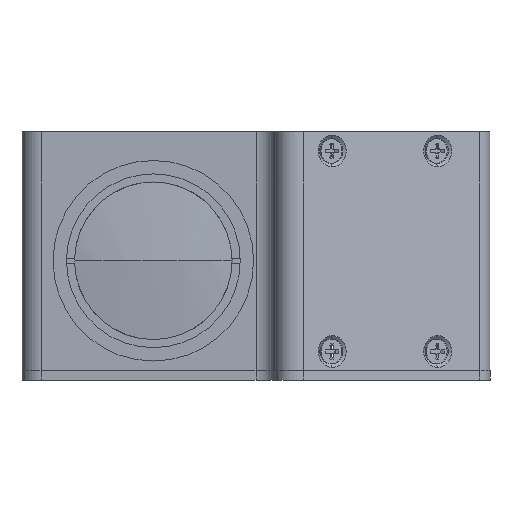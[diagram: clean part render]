
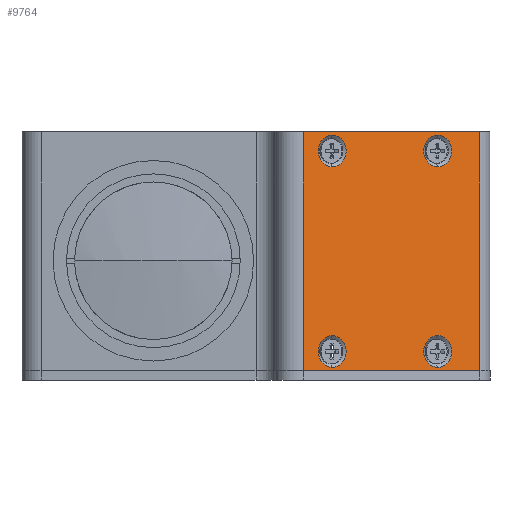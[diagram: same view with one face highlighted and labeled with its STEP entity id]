
A CAD part, left-side view. The second image highlights one B-rep face of the part: STEP entity #9764.
In plain terms, the highlighted planar face has unit normal (-0.883, -0.469, 0).
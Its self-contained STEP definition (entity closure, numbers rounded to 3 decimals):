
#4 = DIRECTION ( 'NONE',  ( -0.883, -0.469, 0. ) ) ;
#433 = DIRECTION ( 'NONE',  ( 0., 0., -1. ) ) ;
#437 = CARTESIAN_POINT ( 'NONE',  ( 59.561, -59.548, 26.3 ) ) ;
#566 = CARTESIAN_POINT ( 'NONE',  ( 47.824, -37.475, 23. ) ) ;
#599 = PLANE ( 'NONE',  #3641 ) ;
#628 = CARTESIAN_POINT ( 'NONE',  ( 59.561, -59.548, 19.7 ) ) ;
#851 = VERTEX_POINT ( 'NONE', #1781 ) ;
#879 = CARTESIAN_POINT ( 'NONE',  ( 59.561, -59.548, 23. ) ) ;
#939 = DIRECTION ( 'NONE',  ( 0.469, -0.883, 0. ) ) ;
#1079 = EDGE_CURVE ( 'NONE', #9185, #851, #8837, .T. ) ;
#1301 = CARTESIAN_POINT ( 'NONE',  ( 44.566, -31.348, -23. ) ) ;
#1386 = CARTESIAN_POINT ( 'NONE',  ( 64.256, -68.378, 2. ) ) ;
#1394 = FACE_BOUND ( 'NONE', #14775, .T. ) ;
#1419 = DIRECTION ( 'NONE',  ( -0.883, -0.469, 0. ) ) ;
#1432 = ORIENTED_EDGE ( 'NONE', *, *, #3705, .F. ) ;
#1469 = EDGE_CURVE ( 'NONE', #8634, #4932, #7221, .T. ) ;
#1491 = CARTESIAN_POINT ( 'NONE',  ( 47.824, -37.475, -19. ) ) ;
#1673 = EDGE_CURVE ( 'NONE', #7015, #13671, #13429, .T. ) ;
#1676 = CARTESIAN_POINT ( 'NONE',  ( 59.561, -59.548, -15.7 ) ) ;
#1737 = DIRECTION ( 'NONE',  ( 0., 0., 1. ) ) ;
#1769 = AXIS2_PLACEMENT_3D ( 'NONE', #8248, #1419, #9402 ) ;
#1775 = VERTEX_POINT ( 'NONE', #4211 ) ;
#1781 = CARTESIAN_POINT ( 'NONE',  ( 59.561, -59.548, -22.3 ) ) ;
#2018 = DIRECTION ( 'NONE',  ( 0., 0., 1. ) ) ;
#2177 = AXIS2_PLACEMENT_3D ( 'NONE', #879, #8873, #2018 ) ;
#2257 = CARTESIAN_POINT ( 'NONE',  ( 47.824, -37.475, -19. ) ) ;
#2311 = AXIS2_PLACEMENT_3D ( 'NONE', #12182, #5369, #13323 ) ;
#2443 = EDGE_LOOP ( 'NONE', ( #7102, #5990, #13372, #9645 ) ) ;
#2625 = DIRECTION ( 'NONE',  ( 0., 0., 1. ) ) ;
#2887 = DIRECTION ( 'NONE',  ( -0.883, -0.469, 0. ) ) ;
#2896 = VERTEX_POINT ( 'NONE', #4279 ) ;
#2918 = DIRECTION ( 'NONE',  ( -0.883, -0.469, 0. ) ) ;
#3017 = ORIENTED_EDGE ( 'NONE', *, *, #1079, .F. ) ;
#3122 = CARTESIAN_POINT ( 'NONE',  ( 67.497, -74.473, -23. ) ) ;
#3194 = ORIENTED_EDGE ( 'NONE', *, *, #8314, .F. ) ;
#3394 = DIRECTION ( 'NONE',  ( 0., 0., 1. ) ) ;
#3641 = AXIS2_PLACEMENT_3D ( 'NONE', #8601, #2887, #10895 ) ;
#3705 = EDGE_CURVE ( 'NONE', #851, #9185, #6083, .T. ) ;
#4128 = ORIENTED_EDGE ( 'NONE', *, *, #6864, .F. ) ;
#4211 = CARTESIAN_POINT ( 'NONE',  ( 64.256, -68.378, -23. ) ) ;
#4279 = CARTESIAN_POINT ( 'NONE',  ( 47.824, -37.475, -22.3 ) ) ;
#4788 = EDGE_CURVE ( 'NONE', #6517, #13914, #6514, .T. ) ;
#4932 = VERTEX_POINT ( 'NONE', #628 ) ;
#5369 = DIRECTION ( 'NONE',  ( -0.883, -0.469, 0. ) ) ;
#5692 = CIRCLE ( 'NONE', #9949, 3.3 ) ;
#5990 = ORIENTED_EDGE ( 'NONE', *, *, #14554, .T. ) ;
#6083 = CIRCLE ( 'NONE', #1769, 3.3 ) ;
#6161 = VECTOR ( 'NONE', #433, 1000. ) ;
#6263 = EDGE_CURVE ( 'NONE', #2896, #9787, #11276, .T. ) ;
#6398 = CARTESIAN_POINT ( 'NONE',  ( 47.824, -37.475, 19.7 ) ) ;
#6514 = LINE ( 'NONE', #14088, #6161 ) ;
#6517 = VERTEX_POINT ( 'NONE', #9915 ) ;
#6519 = LINE ( 'NONE', #3122, #9206 ) ;
#6656 = CARTESIAN_POINT ( 'NONE',  ( 67.497, -74.473, 27. ) ) ;
#6732 = AXIS2_PLACEMENT_3D ( 'NONE', #6893, #4, #8036 ) ;
#6741 = CIRCLE ( 'NONE', #14583, 3.3 ) ;
#6864 = EDGE_CURVE ( 'NONE', #4932, #8634, #9831, .T. ) ;
#6885 = CARTESIAN_POINT ( 'NONE',  ( 47.824, -37.475, 26.3 ) ) ;
#6893 = CARTESIAN_POINT ( 'NONE',  ( 59.561, -59.548, -19. ) ) ;
#7015 = VERTEX_POINT ( 'NONE', #6885 ) ;
#7102 = ORIENTED_EDGE ( 'NONE', *, *, #13735, .F. ) ;
#7118 = FACE_OUTER_BOUND ( 'NONE', #2443, .T. ) ;
#7221 = CIRCLE ( 'NONE', #2311, 3.3 ) ;
#7858 = EDGE_LOOP ( 'NONE', ( #3194, #11548 ) ) ;
#8036 = DIRECTION ( 'NONE',  ( 0., 0., 1. ) ) ;
#8248 = CARTESIAN_POINT ( 'NONE',  ( 59.561, -59.548, -19. ) ) ;
#8277 = VECTOR ( 'NONE', #13873, 1000. ) ;
#8314 = EDGE_CURVE ( 'NONE', #9787, #2896, #5692, .T. ) ;
#8576 = DIRECTION ( 'NONE',  ( -0.883, -0.469, 0. ) ) ;
#8601 = CARTESIAN_POINT ( 'NONE',  ( 54.469, -49.971, 2. ) ) ;
#8634 = VERTEX_POINT ( 'NONE', #437 ) ;
#8656 = CARTESIAN_POINT ( 'NONE',  ( 47.824, -37.475, -15.7 ) ) ;
#8837 = CIRCLE ( 'NONE', #6732, 3.3 ) ;
#8873 = DIRECTION ( 'NONE',  ( -0.883, -0.469, 0. ) ) ;
#9169 = AXIS2_PLACEMENT_3D ( 'NONE', #1491, #9483, #2625 ) ;
#9185 = VERTEX_POINT ( 'NONE', #1676 ) ;
#9206 = VECTOR ( 'NONE', #12269, 1000. ) ;
#9402 = DIRECTION ( 'NONE',  ( 0., 0., 1. ) ) ;
#9483 = DIRECTION ( 'NONE',  ( -0.883, -0.469, 0. ) ) ;
#9645 = ORIENTED_EDGE ( 'NONE', *, *, #4788, .T. ) ;
#9764 = ADVANCED_FACE ( 'NONE', ( #1394, #13501, #13124, #10119, #7118 ), #599, .T. ) ;
#9783 = CARTESIAN_POINT ( 'NONE',  ( 47.824, -37.475, 23. ) ) ;
#9787 = VERTEX_POINT ( 'NONE', #8656 ) ;
#9831 = CIRCLE ( 'NONE', #2177, 3.3 ) ;
#9915 = CARTESIAN_POINT ( 'NONE',  ( 44.566, -31.348, 27. ) ) ;
#9949 = AXIS2_PLACEMENT_3D ( 'NONE', #2257, #10230, #3394 ) ;
#10119 = FACE_BOUND ( 'NONE', #11976, .T. ) ;
#10230 = DIRECTION ( 'NONE',  ( -0.883, -0.469, 0. ) ) ;
#10294 = ORIENTED_EDGE ( 'NONE', *, *, #13030, .F. ) ;
#10419 = EDGE_CURVE ( 'NONE', #6517, #11390, #14220, .T. ) ;
#10625 = CARTESIAN_POINT ( 'NONE',  ( 64.256, -68.378, 27. ) ) ;
#10869 = VECTOR ( 'NONE', #939, 1000. ) ;
#10895 = DIRECTION ( 'NONE',  ( 0., 0., 1. ) ) ;
#10919 = DIRECTION ( 'NONE',  ( 0., 0., 1. ) ) ;
#10938 = ORIENTED_EDGE ( 'NONE', *, *, #1469, .F. ) ;
#11276 = CIRCLE ( 'NONE', #9169, 3.3 ) ;
#11306 = LINE ( 'NONE', #1386, #8277 ) ;
#11390 = VERTEX_POINT ( 'NONE', #10625 ) ;
#11548 = ORIENTED_EDGE ( 'NONE', *, *, #6263, .F. ) ;
#11976 = EDGE_LOOP ( 'NONE', ( #14358, #10294 ) ) ;
#12182 = CARTESIAN_POINT ( 'NONE',  ( 59.561, -59.548, 23. ) ) ;
#12269 = DIRECTION ( 'NONE',  ( -0.469, 0.883, 0. ) ) ;
#12983 = AXIS2_PLACEMENT_3D ( 'NONE', #9783, #2918, #10919 ) ;
#13030 = EDGE_CURVE ( 'NONE', #13671, #7015, #6741, .T. ) ;
#13124 = FACE_BOUND ( 'NONE', #7858, .T. ) ;
#13323 = DIRECTION ( 'NONE',  ( 0., 0., 1. ) ) ;
#13372 = ORIENTED_EDGE ( 'NONE', *, *, #10419, .F. ) ;
#13429 = CIRCLE ( 'NONE', #12983, 3.3 ) ;
#13501 = FACE_BOUND ( 'NONE', #13590, .T. ) ;
#13590 = EDGE_LOOP ( 'NONE', ( #3017, #1432 ) ) ;
#13671 = VERTEX_POINT ( 'NONE', #6398 ) ;
#13735 = EDGE_CURVE ( 'NONE', #1775, #13914, #6519, .T. ) ;
#13873 = DIRECTION ( 'NONE',  ( 0., 0., 1. ) ) ;
#13914 = VERTEX_POINT ( 'NONE', #1301 ) ;
#14088 = CARTESIAN_POINT ( 'NONE',  ( 44.566, -31.348, 2. ) ) ;
#14220 = LINE ( 'NONE', #6656, #10869 ) ;
#14358 = ORIENTED_EDGE ( 'NONE', *, *, #1673, .F. ) ;
#14554 = EDGE_CURVE ( 'NONE', #1775, #11390, #11306, .T. ) ;
#14583 = AXIS2_PLACEMENT_3D ( 'NONE', #566, #8576, #1737 ) ;
#14775 = EDGE_LOOP ( 'NONE', ( #10938, #4128 ) ) ;
